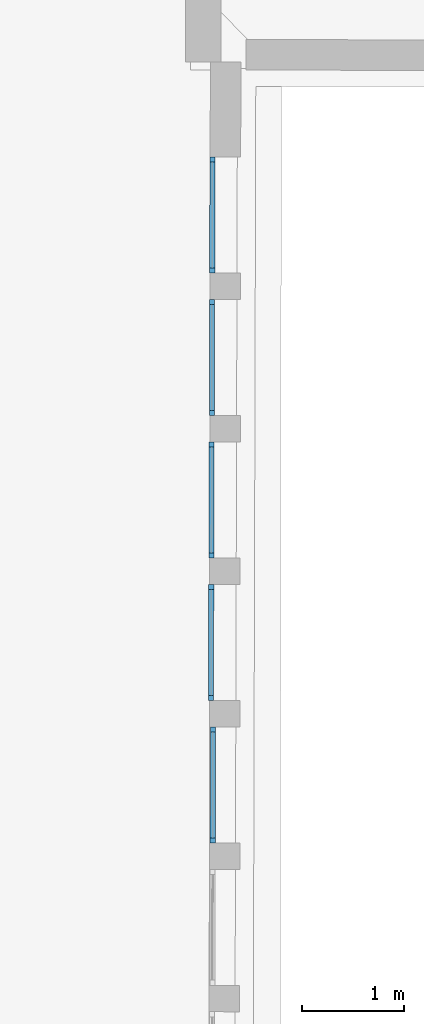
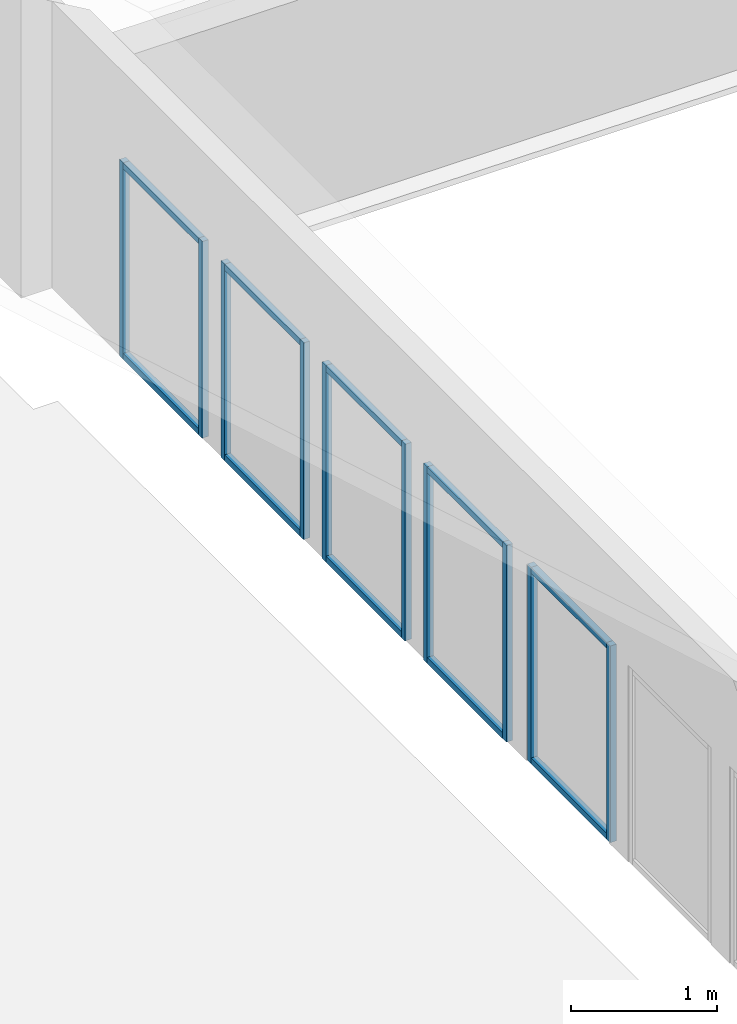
# One storey, part 13 of 26: 20 members, 5 elements without a shape of their own.
"""IFC2X3 building model written with IfcOpenShell, lengths in metres."""

from ifc_helpers import new_model, entity, si_unit, converted_unit, derived_unit, direction, frame, origin, origin_2d_with_axis, place, context, subcontext, project, spatial, rectangle, extrude, source, transform, mapped, material, type_object, type_shapes, element, aggregate, save


model = new_model("IFC2X3")

# Units and contexts
model_context = context("Model", 3, precision=1e-05, world=origin(), true_north=direction((6.123233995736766e-17, 1.0)))
body_context = subcontext(model_context, "Body", "Model", "MODEL_VIEW")
ifc_project = project(units=[si_unit("LENGTHUNIT", "METRE"), si_unit("AREAUNIT", "SQUARE_METRE"), converted_unit("PLANEANGLEUNIT", "DEGREE", entity("IfcPlaneAngleMeasure", 0.017453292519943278), si_unit("PLANEANGLEUNIT", "RADIAN"), dimensions=[0, 0, 0, 0, 0, 0, 0]), derived_unit("THERMALTRANSMITTANCEUNIT", [(si_unit("MASSUNIT", "GRAM", prefix="KILO"), 1), (si_unit("THERMODYNAMICTEMPERATUREUNIT", "KELVIN"), -1), (si_unit("TIMEUNIT", "SECOND"), -3)])], contexts=[model_context])

# Site, building, storey
site_placement = place(None, frame((1253.6752467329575, 2072.143113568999, 91.49999999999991), z_axis=(0.0, 0.0, 1.0), x_axis=(0.7237211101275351, 0.6900925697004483, 0.0)))
site = spatial("IfcSite", under=ifc_project, at=site_placement, Name="Surface", CompositionType="ELEMENT")
building_placement = place(site_placement, origin())
building = spatial("IfcBuilding", under=site, at=building_placement, CompositionType="ELEMENT")
storey_placement = place(building_placement, frame((0.0, 0.0, 7.0)))
storey = spatial("IfcBuildingStorey", under=building, at=storey_placement, Name="2-R+2", CompositionType="ELEMENT", Elevation=6.999999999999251)

# Curtain wall, member
curtain_wall_type = type_object("IfcCurtainWallType", Name="Mur-rideau:Menuiserie Ext 1F+1OB VERTIC", PredefinedType="NOTDEFINED")
curtain_wall_1_placement = place(storey_placement, frame((0.0, 0.0, -7.0)))
curtain_wall_1 = element("IfcCurtainWall", 1, at=curtain_wall_1_placement, inside=storey, type_object=curtain_wall_type, Name="Mur-rideau:Menuiserie Ext 1F+1OB VERTIC", ObjectType="Mur-rideau:Menuiserie Ext 1F+1OB VERTIC")
ifc_material = material(Name="OMD_Aluminium Men Ext")
member_type_1 = type_object("IfcMemberType", Name="Meneau rectangulaire:50x50", PredefinedType="MULLION", material=ifc_material)
shared_shape_1 = source(origin(), body_context, "Body", "SweptSolid", [
    extrude(rectangle(XDim=0.05, YDim=0.049999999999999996, at=origin_2d_with_axis()), frame((-0.025, 0.0, -1.6499999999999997), z_axis=(0.0, 0.0, 1.0), x_axis=(-1.0, 0.0, 0.0)), (0.0, 0.0, 1.0), 1.6499999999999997),
])
type_shapes(member_type_1, [shared_shape_1])
member_1_placement = place(curtain_wall_1_placement, frame((195.06505304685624, -12.764360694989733, 7.9), z_axis=(0.0, 0.0, -1.0), x_axis=(0.6909838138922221, 0.7228702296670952, 0.0)))
member_1 = element("IfcMember", 2, at=member_1_placement, type_object=member_type_1, material=ifc_material, Name="Meneau rectangulaire:50x50", ObjectType="Meneau rectangulaire:50x50", context=body_context, shape_type="MappedRepresentation", body=[
    mapped(shared_shape_1, transform((0.0, 0.0, 0.0), scale=1.0)),
])

curtain_wall_2_placement = place(storey_placement, frame((0.0, 0.0, -7.0)))
curtain_wall_2 = element("IfcCurtainWall", 3, at=curtain_wall_2_placement, inside=storey, type_object=curtain_wall_type, Name="Mur-rideau:Menuiserie Ext 1F+1OB VERTIC", ObjectType="Mur-rideau:Menuiserie Ext 1F+1OB VERTIC")
member_2_placement = place(curtain_wall_2_placement, frame((194.09628756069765, -13.775050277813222, 7.9), z_axis=(0.0, 0.0, -1.0), x_axis=(0.6909838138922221, 0.7228702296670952, 0.0)))
member_2 = element("IfcMember", 4, at=member_2_placement, type_object=member_type_1, material=ifc_material, Name="Meneau rectangulaire:50x50", ObjectType="Meneau rectangulaire:50x50", context=body_context, shape_type="MappedRepresentation", body=[
    mapped(shared_shape_1, transform((0.0, 0.0, 0.0), scale=1.0)),
])

curtain_wall_3_placement = place(storey_placement, frame((0.0, 0.0, -7.0)))
curtain_wall_3 = element("IfcCurtainWall", 5, at=curtain_wall_3_placement, inside=storey, type_object=curtain_wall_type, Name="Mur-rideau:Menuiserie Ext 1F+1OB VERTIC", ObjectType="Mur-rideau:Menuiserie Ext 1F+1OB VERTIC")
member_3_placement = place(curtain_wall_3_placement, frame((193.12752207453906, -14.78573986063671, 7.9), z_axis=(0.0, 0.0, -1.0), x_axis=(0.6909838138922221, 0.7228702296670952, 0.0)))
member_3 = element("IfcMember", 6, at=member_3_placement, type_object=member_type_1, material=ifc_material, Name="Meneau rectangulaire:50x50", ObjectType="Meneau rectangulaire:50x50", context=body_context, shape_type="MappedRepresentation", body=[
    mapped(shared_shape_1, transform((0.0, 0.0, 0.0), scale=1.0)),
])

curtain_wall_4_placement = place(storey_placement, frame((0.0, 0.0, -7.0)))
curtain_wall_4 = element("IfcCurtainWall", 7, at=curtain_wall_4_placement, inside=storey, type_object=curtain_wall_type, Name="Mur-rideau:Menuiserie Ext 1F+1OB VERTIC", ObjectType="Mur-rideau:Menuiserie Ext 1F+1OB VERTIC")
member_4_placement = place(curtain_wall_4_placement, frame((192.15875658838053, -15.796429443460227, 7.9), z_axis=(0.0, 0.0, -1.0), x_axis=(0.6909838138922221, 0.7228702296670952, 0.0)))
member_4 = element("IfcMember", 8, at=member_4_placement, type_object=member_type_1, material=ifc_material, Name="Meneau rectangulaire:50x50", ObjectType="Meneau rectangulaire:50x50", context=body_context, shape_type="MappedRepresentation", body=[
    mapped(shared_shape_1, transform((0.0, 0.0, 0.0), scale=1.0)),
])

curtain_wall_5_placement = place(storey_placement, frame((0.0, 0.0, -7.0)))
curtain_wall_5 = element("IfcCurtainWall", 9, at=curtain_wall_5_placement, inside=storey, type_object=curtain_wall_type, Name="Mur-rideau:Menuiserie Ext 1F+1OB VERTIC", ObjectType="Mur-rideau:Menuiserie Ext 1F+1OB VERTIC")
member_5_placement = place(curtain_wall_5_placement, frame((191.2044295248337, -16.82095853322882, 7.9), z_axis=(0.0, 0.0, -1.0), x_axis=(0.6909838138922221, 0.7228702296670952, 0.0)))
member_5 = element("IfcMember", 10, at=member_5_placement, type_object=member_type_1, material=ifc_material, Name="Meneau rectangulaire:50x50", ObjectType="Meneau rectangulaire:50x50", context=body_context, shape_type="MappedRepresentation", body=[
    mapped(shared_shape_1, transform((0.0, 0.0, 0.0), scale=1.0)),
])

# Member
member_type_2 = type_object("IfcMemberType", Name="Meneau rectangulaire:50x50", PredefinedType="MULLION", material=ifc_material)
shared_shape_2 = source(origin(), body_context, "Body", "SweptSolid", [
    extrude(rectangle(XDim=0.05, YDim=0.049999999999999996, at=origin_2d_with_axis()), frame((-0.025, 0.0, -1.6499999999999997), z_axis=(0.0, 0.0, 1.0), x_axis=(-1.0, 0.0, 0.0)), (0.0, 0.0, 1.0), 1.6499999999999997),
])
type_shapes(member_type_2, [shared_shape_2])
member_6_placement = place(curtain_wall_1_placement, frame((194.27733149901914, -13.588432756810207, 9.55), z_axis=(0.0, 0.0, 1.0), x_axis=(-0.6909838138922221, -0.7228702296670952, 0.0)))
member_6 = element("IfcMember", 11, at=member_6_placement, type_object=member_type_2, material=ifc_material, Name="Meneau rectangulaire:50x50", ObjectType="Meneau rectangulaire:50x50", context=body_context, shape_type="MappedRepresentation", body=[
    mapped(shared_shape_2, transform((0.0, 0.0, 0.0), scale=1.0)),
])

member_7_placement = place(curtain_wall_2_placement, frame((193.30856601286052, -14.599122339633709, 9.55), z_axis=(0.0, 0.0, 1.0), x_axis=(-0.6909838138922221, -0.7228702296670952, 0.0)))
member_7 = element("IfcMember", 12, at=member_7_placement, type_object=member_type_2, material=ifc_material, Name="Meneau rectangulaire:50x50", ObjectType="Meneau rectangulaire:50x50", context=body_context, shape_type="MappedRepresentation", body=[
    mapped(shared_shape_2, transform((0.0, 0.0, 0.0), scale=1.0)),
])

member_8_placement = place(curtain_wall_3_placement, frame((192.339800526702, -15.609811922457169, 9.55), z_axis=(0.0, 0.0, 1.0), x_axis=(-0.6909838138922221, -0.7228702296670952, 0.0)))
member_8 = element("IfcMember", 13, at=member_8_placement, type_object=member_type_2, material=ifc_material, Name="Meneau rectangulaire:50x50", ObjectType="Meneau rectangulaire:50x50", context=body_context, shape_type="MappedRepresentation", body=[
    mapped(shared_shape_2, transform((0.0, 0.0, 0.0), scale=1.0)),
])

member_9_placement = place(curtain_wall_4_placement, frame((191.37103504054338, -16.62050150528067, 9.55), z_axis=(0.0, 0.0, 1.0), x_axis=(-0.6909838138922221, -0.7228702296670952, 0.0)))
member_9 = element("IfcMember", 14, at=member_9_placement, type_object=member_type_2, material=ifc_material, Name="Meneau rectangulaire:50x50", ObjectType="Meneau rectangulaire:50x50", context=body_context, shape_type="MappedRepresentation", body=[
    mapped(shared_shape_2, transform((0.0, 0.0, 0.0), scale=1.0)),
])

member_10_placement = place(curtain_wall_5_placement, frame((190.41670797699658, -17.645030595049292, 9.55), z_axis=(0.0, 0.0, 1.0), x_axis=(-0.6909838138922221, -0.7228702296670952, 0.0)))
member_10 = element("IfcMember", 15, at=member_10_placement, type_object=member_type_2, material=ifc_material, Name="Meneau rectangulaire:50x50", ObjectType="Meneau rectangulaire:50x50", context=body_context, shape_type="MappedRepresentation", body=[
    mapped(shared_shape_2, transform((0.0, 0.0, 0.0), scale=1.0)),
])

member_type_3 = type_object("IfcMemberType", Name="Meneau rectangulaire:50x50", PredefinedType="MULLION", material=ifc_material)
shared_shape_3 = source(origin(), body_context, "Body", "SweptSolid", [
    extrude(rectangle(XDim=0.05, YDim=0.049999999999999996, at=origin_2d_with_axis()), frame((-0.025, 0.0, -1.0399999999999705), z_axis=(0.0, 0.0, 1.0), x_axis=(-1.0, 0.0, 0.0)), (0.0, 0.0, 1.0), 1.0399999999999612),
])
type_shapes(member_type_3, [shared_shape_3])
member_11_placement = place(curtain_wall_1_placement, frame((195.0305038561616, -12.800504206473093, 9.55), z_axis=(0.6909838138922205, 0.7228702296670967, 0.0), x_axis=(0.0, 0.0, 1.0)))
member_11 = element("IfcMember", 16, at=member_11_placement, type_object=member_type_3, material=ifc_material, Name="Meneau rectangulaire:50x50", ObjectType="Meneau rectangulaire:50x50", context=body_context, shape_type="MappedRepresentation", body=[
    mapped(shared_shape_3, transform((0.0, 0.0, 0.0), scale=1.0)),
])

member_12_placement = place(curtain_wall_2_placement, frame((194.06173837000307, -13.811193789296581, 9.55), z_axis=(0.6909838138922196, 0.7228702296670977, 0.0), x_axis=(0.0, 0.0, 1.0)))
member_12 = element("IfcMember", 17, at=member_12_placement, type_object=member_type_3, material=ifc_material, Name="Meneau rectangulaire:50x50", ObjectType="Meneau rectangulaire:50x50", context=body_context, shape_type="MappedRepresentation", body=[
    mapped(shared_shape_3, transform((0.0, 0.0, 0.0), scale=1.0)),
])

member_13_placement = place(curtain_wall_3_placement, frame((193.0929728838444, -14.821883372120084, 9.55), z_axis=(0.6909838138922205, 0.7228702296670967, 0.0), x_axis=(0.0, 0.0, 1.0)))
member_13 = element("IfcMember", 18, at=member_13_placement, type_object=member_type_3, material=ifc_material, Name="Meneau rectangulaire:50x50", ObjectType="Meneau rectangulaire:50x50", context=body_context, shape_type="MappedRepresentation", body=[
    mapped(shared_shape_3, transform((0.0, 0.0, 0.0), scale=1.0)),
])

member_14_placement = place(curtain_wall_4_placement, frame((192.12420739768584, -15.832572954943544, 9.55), z_axis=(0.6909838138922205, 0.7228702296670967, 0.0), x_axis=(0.0, 0.0, 1.0)))
member_14 = element("IfcMember", 19, at=member_14_placement, type_object=member_type_3, material=ifc_material, Name="Meneau rectangulaire:50x50", ObjectType="Meneau rectangulaire:50x50", context=body_context, shape_type="MappedRepresentation", body=[
    mapped(shared_shape_3, transform((0.0, 0.0, 0.0), scale=1.0)),
])

member_15_placement = place(curtain_wall_5_placement, frame((191.16988033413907, -16.857102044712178, 9.55), z_axis=(0.6909838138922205, 0.7228702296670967, 0.0), x_axis=(0.0, 0.0, 1.0)))
member_15 = element("IfcMember", 20, at=member_15_placement, type_object=member_type_3, material=ifc_material, Name="Meneau rectangulaire:50x50", ObjectType="Meneau rectangulaire:50x50", context=body_context, shape_type="MappedRepresentation", body=[
    mapped(shared_shape_3, transform((0.0, 0.0, 0.0), scale=1.0)),
])

member_type_4 = type_object("IfcMemberType", Name="Meneau rectangulaire:50x50", PredefinedType="MULLION", material=ifc_material)
shared_shape_4 = source(origin(), body_context, "Body", "SweptSolid", [
    extrude(rectangle(XDim=0.05, YDim=0.05, at=origin_2d_with_axis()), frame((-0.025, 0.0, -1.0399999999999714), z_axis=(0.0, 0.0, 1.0), x_axis=(-1.0, 0.0, 0.0)), (0.0, 0.0, 1.0), 1.0399999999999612),
])
type_shapes(member_type_4, [shared_shape_4])
member_16_placement = place(curtain_wall_1_placement, frame((194.31188068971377, -13.552289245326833, 7.9), z_axis=(-0.6909838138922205, -0.7228702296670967, 0.0), x_axis=(0.0, 0.0, -1.0)))
member_16 = element("IfcMember", 21, at=member_16_placement, type_object=member_type_4, material=ifc_material, Name="Meneau rectangulaire:50x50", ObjectType="Meneau rectangulaire:50x50", context=body_context, shape_type="MappedRepresentation", body=[
    mapped(shared_shape_4, transform((0.0, 0.0, 0.0), scale=1.0)),
])

aggregate(curtain_wall_1, [member_11, member_16, member_1, member_6])

member_17_placement = place(curtain_wall_2_placement, frame((193.34311520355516, -14.56297882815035, 7.9), z_axis=(-0.6909838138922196, -0.7228702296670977, 0.0), x_axis=(0.0, 0.0, -1.0)))
member_17 = element("IfcMember", 22, at=member_17_placement, type_object=member_type_4, material=ifc_material, Name="Meneau rectangulaire:50x50", ObjectType="Meneau rectangulaire:50x50", context=body_context, shape_type="MappedRepresentation", body=[
    mapped(shared_shape_4, transform((0.0, 0.0, 0.0), scale=1.0)),
])

aggregate(curtain_wall_2, [member_12, member_17, member_2, member_7])

member_18_placement = place(curtain_wall_3_placement, frame((192.37434971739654, -15.57366841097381, 7.9), z_axis=(-0.6909838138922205, -0.7228702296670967, 0.0), x_axis=(0.0, 0.0, -1.0)))
member_18 = element("IfcMember", 23, at=member_18_placement, type_object=member_type_4, material=ifc_material, Name="Meneau rectangulaire:50x50", ObjectType="Meneau rectangulaire:50x50", context=body_context, shape_type="MappedRepresentation", body=[
    mapped(shared_shape_4, transform((0.0, 0.0, 0.0), scale=1.0)),
])

aggregate(curtain_wall_3, [member_13, member_18, member_3, member_8])

member_19_placement = place(curtain_wall_4_placement, frame((191.405584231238, -16.584357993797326, 7.9), z_axis=(-0.6909838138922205, -0.7228702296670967, 0.0), x_axis=(0.0, 0.0, -1.0)))
member_19 = element("IfcMember", 24, at=member_19_placement, type_object=member_type_4, material=ifc_material, Name="Meneau rectangulaire:50x50", ObjectType="Meneau rectangulaire:50x50", context=body_context, shape_type="MappedRepresentation", body=[
    mapped(shared_shape_4, transform((0.0, 0.0, 0.0), scale=1.0)),
])

aggregate(curtain_wall_4, [member_14, member_19, member_4, member_9])

member_20_placement = place(curtain_wall_5_placement, frame((190.45125716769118, -17.608887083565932, 7.9), z_axis=(-0.6909838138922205, -0.7228702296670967, 0.0), x_axis=(0.0, 0.0, -1.0)))
member_20 = element("IfcMember", 25, at=member_20_placement, type_object=member_type_4, material=ifc_material, Name="Meneau rectangulaire:50x50", ObjectType="Meneau rectangulaire:50x50", context=body_context, shape_type="MappedRepresentation", body=[
    mapped(shared_shape_4, transform((0.0, 0.0, 0.0), scale=1.0)),
])

aggregate(curtain_wall_5, [member_15, member_20, member_5, member_10])

save(model, "model.ifc")
